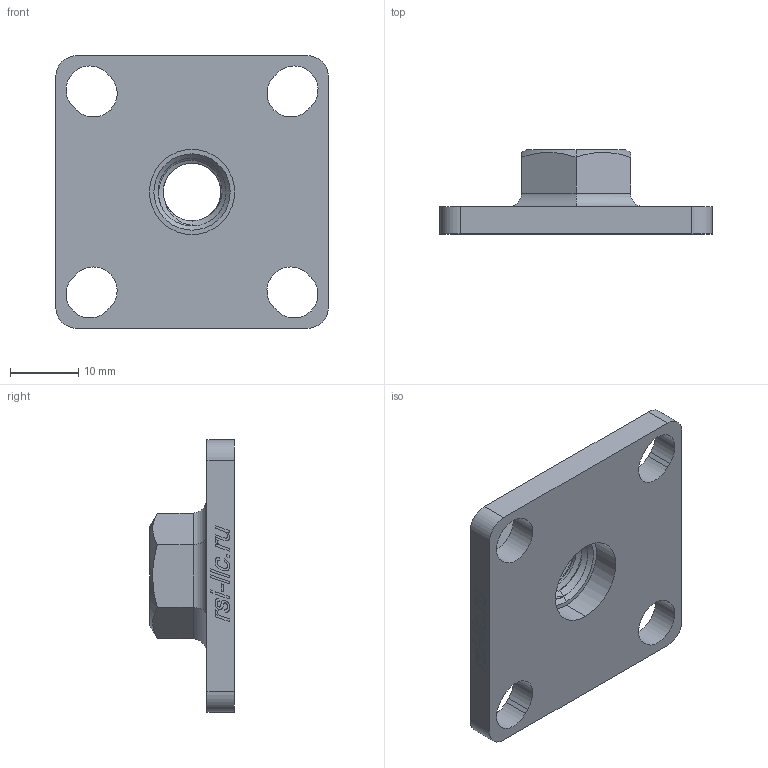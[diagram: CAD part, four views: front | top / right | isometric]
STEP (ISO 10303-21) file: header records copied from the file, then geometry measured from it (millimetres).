
FILE_DESCRIPTION (( 'STEP AP214' ), '1' );
FILE_NAME ('7031-Ñòàëü-Ì10.STEP', '2022-09-26T11:43:23', ( '' ), ( '' ), 'SwSTEP 2.0', 'SolidWorks 2020', '' );
FILE_SCHEMA (( 'AUTOMOTIVE_DESIGN' ));
Length unit declared in the file: millimetre
Products named in the file (1): 7031-Ñòàëü-Ì10
Bounding box: 40.01 x 12.4 x 40 mm (x, y, z)
Volume: 6569.7 mm3; surface area: 5159.9 mm2
Topology: 12 solids, 12 shells, 177 faces, 437 edges, 286 vertices
Faces by surface type: plane 95, bspline 41, cylinder 35, cone 6
Entity records: 11579 total; most frequent: CARTESIAN_POINT 6417, ORIENTED_EDGE 874, DIRECTION 637, EDGE_CURVE 437, VERTEX_POINT 286, LINE 273, VECTOR 273, EDGE_LOOP 189
